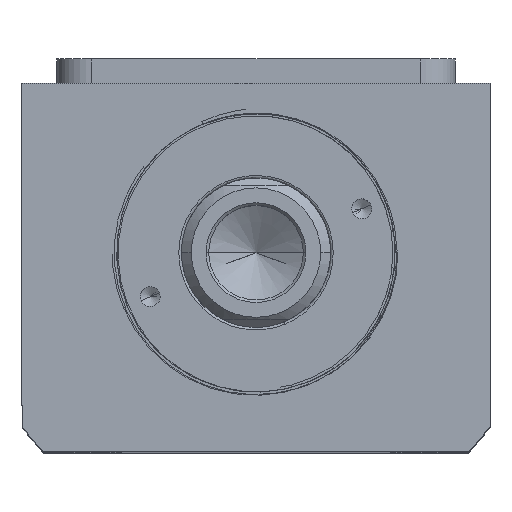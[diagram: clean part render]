
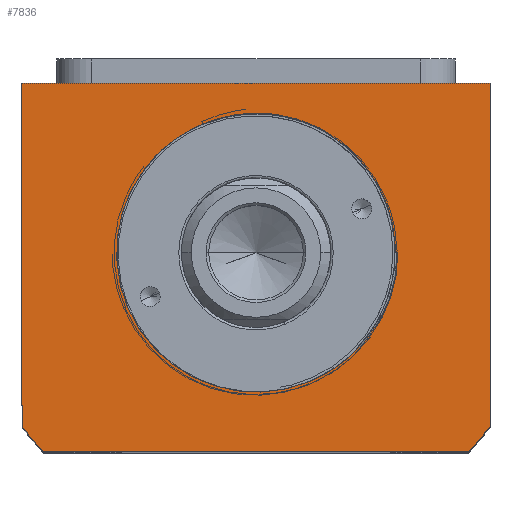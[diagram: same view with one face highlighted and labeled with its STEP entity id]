
A CAD part, top view. The second image highlights one B-rep face of the part: STEP entity #7836.
In plain terms, the highlighted planar face has unit normal (0, 0, 1).
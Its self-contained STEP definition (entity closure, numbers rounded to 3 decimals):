
#337 = DIRECTION ( 'NONE',  ( 1., 0., 0. ) ) ;
#472 = CARTESIAN_POINT ( 'NONE',  ( 15.3, -23.593, 70. ) ) ;
#514 = CARTESIAN_POINT ( 'NONE',  ( 28.485, -0.71, 70. ) ) ;
#594 = PLANE ( 'NONE',  #3243 ) ;
#811 = VECTOR ( 'NONE', #11493, 1000. ) ;
#1185 = VERTEX_POINT ( 'NONE', #10897 ) ;
#1219 = CARTESIAN_POINT ( 'NONE',  ( 47., 34., 70. ) ) ;
#1235 = VERTEX_POINT ( 'NONE', #1219 ) ;
#1400 = LINE ( 'NONE', #9487, #6875 ) ;
#1505 = CARTESIAN_POINT ( 'NONE',  ( 28.449, -1.419, 70. ) ) ;
#1583 = LINE ( 'NONE', #11264, #10681 ) ;
#1700 = DIRECTION ( 'NONE',  ( 0., 0., 1. ) ) ;
#1893 = ORIENTED_EDGE ( 'NONE', *, *, #4929, .T. ) ;
#1956 = EDGE_CURVE ( 'NONE', #2074, #10634, #4156, .T. ) ;
#2053 = ORIENTED_EDGE ( 'NONE', *, *, #9794, .T. ) ;
#2074 = VERTEX_POINT ( 'NONE', #6045 ) ;
#2158 = VERTEX_POINT ( 'NONE', #6275 ) ;
#2242 = CARTESIAN_POINT ( 'NONE',  ( 28., 0., 70. ) ) ;
#2275 = CARTESIAN_POINT ( 'NONE',  ( 11.542, -25.544, 70. ) ) ;
#2279 = LINE ( 'NONE', #5864, #7465 ) ;
#2357 = CARTESIAN_POINT ( 'NONE',  ( 28.495, 0., 70. ) ) ;
#2454 = CARTESIAN_POINT ( 'NONE',  ( 10.232, -26.064, 70. ) ) ;
#2480 = CIRCLE ( 'NONE', #6197, 28. ) ;
#3079 = EDGE_CURVE ( 'NONE', #1185, #5090, #4922, .T. ) ;
#3124 = CARTESIAN_POINT ( 'NONE',  ( 26.694, -9.657, 70. ) ) ;
#3218 = DIRECTION ( 'NONE',  ( 1., 0., 0. ) ) ;
#3243 = AXIS2_PLACEMENT_3D ( 'NONE', #6876, #1700, #9668 ) ;
#3300 = ORIENTED_EDGE ( 'NONE', *, *, #5337, .T. ) ;
#3786 = DIRECTION ( 'NONE',  ( 0., 0., -1. ) ) ;
#4030 = CARTESIAN_POINT ( 'NONE',  ( 22.571, -17.007, 70. ) ) ;
#4104 = CARTESIAN_POINT ( 'NONE',  ( 24.898, -13.504, 70. ) ) ;
#4156 = B_SPLINE_CURVE_WITH_KNOTS ( 'NONE', 3,
 ( #2357, #514, #1505, #6831, #8665, #6720, #9506, #3124, #11286, #4104, #7609, #4030, #10290, #10336, #11243, #11208, #5856, #7690, #472, #6753, #7644, #2275, #8543, #4980 ),
 .UNSPECIFIED., .F., .F.,
 ( 4, 2, 2, 2, 2, 2, 2, 2, 2, 2, 2, 4 ),
 ( 0., 0.002, 0.004, 0.009, 0.013, 0.017, 0.021, 0.023, 0.026, 0.03, 0.032, 0.034 ),
 .UNSPECIFIED. ) ;
#4220 = ORIENTED_EDGE ( 'NONE', *, *, #10130, .T. ) ;
#4228 = CARTESIAN_POINT ( 'NONE',  ( 0., 0., 70. ) ) ;
#4324 = CARTESIAN_POINT ( 'NONE',  ( -42.688, -40., 70. ) ) ;
#4773 = CARTESIAN_POINT ( 'NONE',  ( 0., 0., 70. ) ) ;
#4916 = CARTESIAN_POINT ( 'NONE',  ( -47., 34., 70. ) ) ;
#4922 = CIRCLE ( 'NONE', #9197, 58.5 ) ;
#4929 = EDGE_CURVE ( 'NONE', #1235, #9616, #1400, .T. ) ;
#4944 = ORIENTED_EDGE ( 'NONE', *, *, #3079, .T. ) ;
#4980 = CARTESIAN_POINT ( 'NONE',  ( 10.232, -26.064, 70. ) ) ;
#5042 = DIRECTION ( 'NONE',  ( -1., 0., 0. ) ) ;
#5090 = VERTEX_POINT ( 'NONE', #11051 ) ;
#5337 = EDGE_CURVE ( 'NONE', #2158, #8379, #8532, .T. ) ;
#5827 = DIRECTION ( 'NONE',  ( 0., 1., 0. ) ) ;
#5837 = CARTESIAN_POINT ( 'NONE',  ( -47., -34.832, 70. ) ) ;
#5856 = CARTESIAN_POINT ( 'NONE',  ( 18.129, -21.529, 70. ) ) ;
#5859 = AXIS2_PLACEMENT_3D ( 'NONE', #8165, #10073, #7289 ) ;
#5864 = CARTESIAN_POINT ( 'NONE',  ( 47., 34., 70. ) ) ;
#6033 = VERTEX_POINT ( 'NONE', #2242 ) ;
#6045 = CARTESIAN_POINT ( 'NONE',  ( 28.495, 0., 70. ) ) ;
#6197 = AXIS2_PLACEMENT_3D ( 'NONE', #9041, #3786, #9889 ) ;
#6275 = CARTESIAN_POINT ( 'NONE',  ( -47., -34.832, 70. ) ) ;
#6720 = CARTESIAN_POINT ( 'NONE',  ( 27.887, -5.628, 70. ) ) ;
#6753 = CARTESIAN_POINT ( 'NONE',  ( 13.459, -24.624, 70. ) ) ;
#6831 = CARTESIAN_POINT ( 'NONE',  ( 28.323, -2.832, 70. ) ) ;
#6875 = VECTOR ( 'NONE', #5042, 1000. ) ;
#6876 = CARTESIAN_POINT ( 'NONE',  ( 0., 0., 70. ) ) ;
#7085 = EDGE_CURVE ( 'NONE', #9616, #2158, #7817, .T. ) ;
#7114 = FACE_BOUND ( 'NONE', #10676, .T. ) ;
#7258 = EDGE_LOOP ( 'NONE', ( #1893, #10275, #3300, #2053, #4944, #4220 ) ) ;
#7289 = DIRECTION ( 'NONE',  ( 1., 0., 0. ) ) ;
#7465 = VECTOR ( 'NONE', #5827, 1000. ) ;
#7609 = CARTESIAN_POINT ( 'NONE',  ( 24.178, -14.712, 70. ) ) ;
#7644 = CARTESIAN_POINT ( 'NONE',  ( 12.831, -24.945, 70. ) ) ;
#7690 = CARTESIAN_POINT ( 'NONE',  ( 16.467, -22.819, 70. ) ) ;
#7716 = ORIENTED_EDGE ( 'NONE', *, *, #1956, .T. ) ;
#7817 = LINE ( 'NONE', #5837, #811 ) ;
#7836 = ADVANCED_FACE ( 'NONE', ( #7114, #11599 ), #594, .T. ) ;
#8147 = VECTOR ( 'NONE', #11409, 1000. ) ;
#8165 = CARTESIAN_POINT ( 'NONE',  ( 0., 0., 70. ) ) ;
#8379 = VERTEX_POINT ( 'NONE', #4324 ) ;
#8532 = CIRCLE ( 'NONE', #5859, 58.5 ) ;
#8543 = CARTESIAN_POINT ( 'NONE',  ( 10.89, -25.816, 70. ) ) ;
#8665 = CARTESIAN_POINT ( 'NONE',  ( 28.233, -3.538, 70. ) ) ;
#8991 = EDGE_CURVE ( 'NONE', #10634, #6033, #2480, .T. ) ;
#9041 = CARTESIAN_POINT ( 'NONE',  ( 0., 0., 70. ) ) ;
#9197 = AXIS2_PLACEMENT_3D ( 'NONE', #4773, #11036, #337 ) ;
#9487 = CARTESIAN_POINT ( 'NONE',  ( -47., 34., 70. ) ) ;
#9506 = CARTESIAN_POINT ( 'NONE',  ( 27.555, -6.99, 70. ) ) ;
#9616 = VERTEX_POINT ( 'NONE', #4916 ) ;
#9668 = DIRECTION ( 'NONE',  ( 1., 0., 0. ) ) ;
#9794 = EDGE_CURVE ( 'NONE', #8379, #1185, #1583, .T. ) ;
#9889 = DIRECTION ( 'NONE',  ( 1., 0., 0. ) ) ;
#10073 = DIRECTION ( 'NONE',  ( 0., 0., 1. ) ) ;
#10130 = EDGE_CURVE ( 'NONE', #5090, #1235, #2279, .T. ) ;
#10275 = ORIENTED_EDGE ( 'NONE', *, *, #7085, .T. ) ;
#10290 = CARTESIAN_POINT ( 'NONE',  ( 21.684, -18.094, 70. ) ) ;
#10336 = CARTESIAN_POINT ( 'NONE',  ( 20.224, -19.631, 70. ) ) ;
#10358 = EDGE_CURVE ( 'NONE', #2074, #6033, #10809, .T. ) ;
#10634 = VERTEX_POINT ( 'NONE', #2454 ) ;
#10676 = EDGE_LOOP ( 'NONE', ( #11097, #7716, #11555 ) ) ;
#10681 = VECTOR ( 'NONE', #3218, 1000. ) ;
#10809 = LINE ( 'NONE', #4228, #8147 ) ;
#10897 = CARTESIAN_POINT ( 'NONE',  ( 42.688, -40., 70. ) ) ;
#11036 = DIRECTION ( 'NONE',  ( 0., 0., 1. ) ) ;
#11051 = CARTESIAN_POINT ( 'NONE',  ( 47., -34.832, 70. ) ) ;
#11097 = ORIENTED_EDGE ( 'NONE', *, *, #10358, .F. ) ;
#11208 = CARTESIAN_POINT ( 'NONE',  ( 18.667, -21.077, 70. ) ) ;
#11243 = CARTESIAN_POINT ( 'NONE',  ( 19.714, -20.129, 70. ) ) ;
#11264 = CARTESIAN_POINT ( 'NONE',  ( 42.688, -40., 70. ) ) ;
#11286 = CARTESIAN_POINT ( 'NONE',  ( 26.163, -10.961, 70. ) ) ;
#11409 = DIRECTION ( 'NONE',  ( -1., 0., 0. ) ) ;
#11493 = DIRECTION ( 'NONE',  ( 0., -1., 0. ) ) ;
#11555 = ORIENTED_EDGE ( 'NONE', *, *, #8991, .T. ) ;
#11599 = FACE_OUTER_BOUND ( 'NONE', #7258, .T. ) ;
